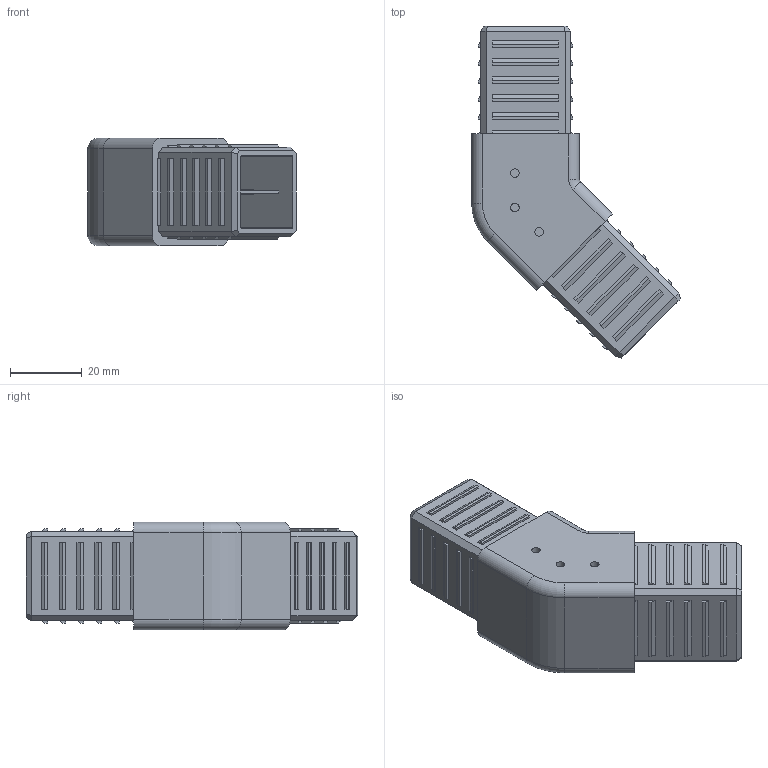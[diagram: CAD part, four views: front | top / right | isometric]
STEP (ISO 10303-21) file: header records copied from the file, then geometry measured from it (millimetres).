
FILE_DESCRIPTION (( 'STEP AP203' ), '1' );
FILE_NAME ('013.030.112.STEP', '2020-09-28T06:33:10', ( '' ), ( '' ), 'SwSTEP 2.0', 'SolidWorks 2018', '' );
FILE_SCHEMA (( 'CONFIG_CONTROL_DESIGN' ));
Length unit declared in the file: millimetre
Products named in the file (1): 013.030.112
Bounding box: 58.09 x 92.38 x 30 mm (x, y, z)
Volume: 34558.8 mm3; surface area: 25365.3 mm2
Topology: 1 solids, 1 shells, 325 faces, 818 edges, 536 vertices
Faces by surface type: plane 297, cylinder 24, torus 4
Entity records: 9625 total; most frequent: CARTESIAN_POINT 1692, ORIENTED_EDGE 1636, DIRECTION 1510, EDGE_CURVE 818, VECTOR 770, LINE 770, VERTEX_POINT 536, EDGE_LOOP 374
